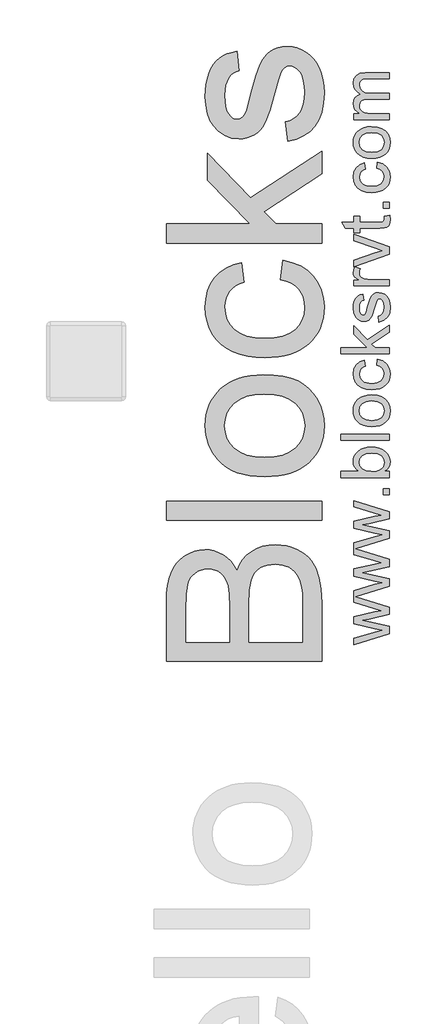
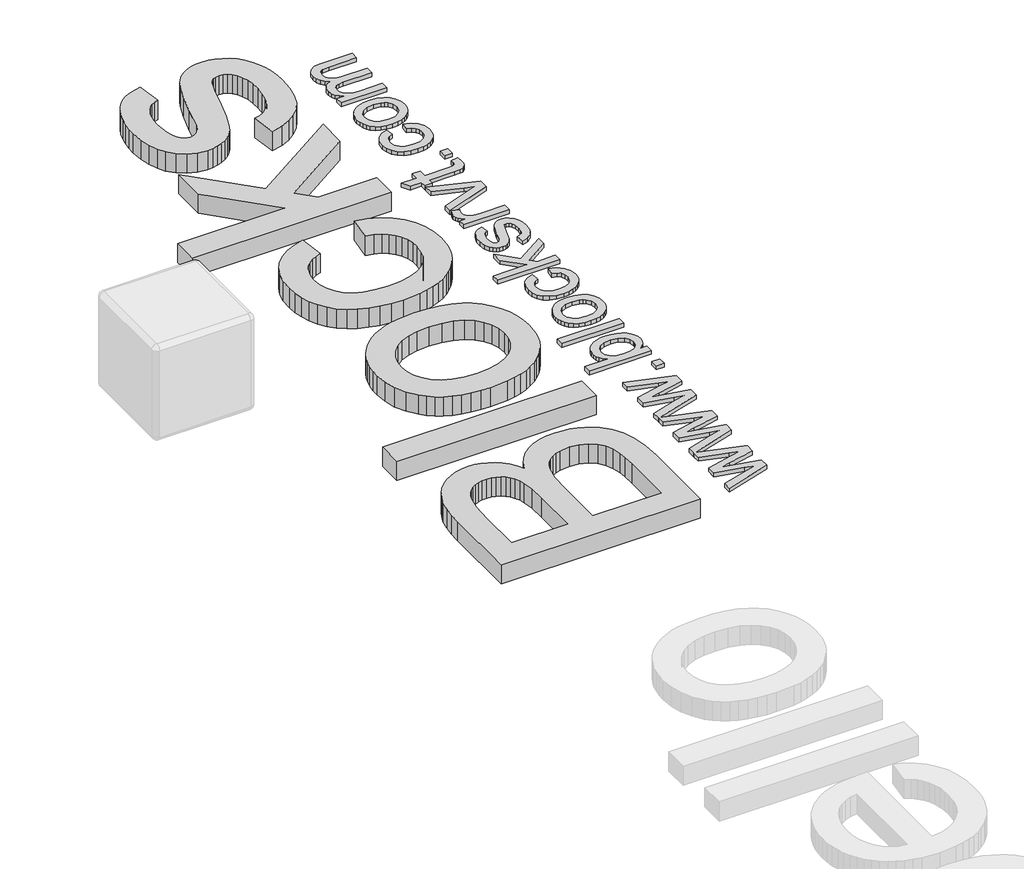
# One storey, part 4 of 4: 2 proxies.
"""IFC4 building model written with IfcOpenShell, lengths in millimetres."""

from ifc_helpers import new_model, si_unit, origin, origin_with_axes, place, context, project, spatial, polyline, outline, extrude, element, save

model = new_model("IFC4")

# Units and contexts
model_context = context("Model", 3, world=origin())
ifc_project = project(units=[si_unit("LENGTHUNIT", "METRE", prefix="MILLI")], contexts=[model_context])

# Site, building, storey
site = spatial("IfcSite", under=ifc_project)
building = spatial("IfcBuilding", under=site)
storey = spatial("IfcBuildingStorey", under=building, Name="PORTOBELLO - SHOWROOM", Elevation=0.0)

# Proxies
placement = place(None, origin())
element("IfcBuildingElementProxy", 1, Name="25mm OpenSans", ObjectType="25mm OpenSans", at=placement, inside=storey, context=model_context, shape_type="SweptSolid", body=[
    extrude(outline(polyline([(80807.9208473, 25882.9264571), (80590.3061731, 25816.7305041), (80807.9208473, 25750.0281338), (80807.9208473, 25703.6299037), (80675.6971347, 25674.1718997), (80634.4709205, 25665.6268298), (80807.9208473, 25627.623756), (80807.9208473, 25580.7008285), (80590.3061731, 25514.5048754), (80807.9208473, 25447.8025052), (80807.9208473, 25401.404275), (80675.6971347, 25371.946271), (80634.4709205, 25363.4012012), (80807.9208473, 25325.3981274), (80807.9208473, 25278.4751999), (80582.4509338, 25209.8897708), (80582.4509338, 25249.7667634), (80714.0000356, 25288.6693183), (80760.9979198, 25300.2876151), (80715.7240409, 25309.8071227), (80582.4509338, 25340.7642617), (80582.4509338, 25386.4878812), (80715.3492571, 25417.2951067), (80756.3506011, 25425.7652198), (80713.1005546, 25437.9082138), (80582.4509338, 25476.8857254), (80582.4509338, 25512.1153994), (80582.4509338, 25516.9126316), (80582.4509338, 25551.9923921), (80714.0000356, 25590.8949469), (80760.9979198, 25602.5132437), (80715.7240409, 25612.0327513), (80582.4509338, 25642.9898904), (80582.4509338, 25688.7135098), (80715.3492571, 25719.5207353), (80756.3506011, 25727.9908484), (80713.1005546, 25740.1338424), (80582.4509338, 25779.1113541), (80582.4509338, 25814.341028), (80582.4509338, 25819.1382602), (80582.4509338, 25854.2180207), (80714.0000356, 25893.1205756), (80760.9979198, 25904.7388723), (80715.7240409, 25914.25838), (80582.4509338, 25945.215519), (80582.4509338, 25990.9391384), (80715.3492571, 26021.7463639), (80756.3506011, 26030.216477), (80713.1005546, 26042.3594711), (80582.4509338, 26081.3369827), (80582.4509338, 26121.3638889), (80807.9208473, 26052.2537625), (80807.9208473, 26005.8555323), (80675.6971347, 25976.3975283), (80634.4709205, 25967.8524584), (80807.9208473, 25929.8493846), (80807.9208473, 25882.9264571)])), origin_with_axes(), (0.0, 0.0, 1.0), 20.0),
    extrude(outline(polyline([(80807.9208473, 26157.3431304), (80769.5429897, 26157.3431304), (80769.5429897, 26195.720988), (80807.9208473, 26195.720988), (80807.9208473, 26157.3431304)])), origin_with_axes(), (0.0, 0.0, 1.0), 20.0),
    extrude(outline(polyline([(80807.9208473, 26306.0573286), (80807.9208473, 26267.679471), (80500.8979864, 26267.679471), (80500.8979864, 26306.0573286), (80614.7572944, 26306.0573286), (80598.5244726, 26318.6781719), (80586.9295998, 26332.9293246), (80579.9726762, 26348.8107866), (80577.6537016, 26366.3225581), (80579.7431211, 26386.0924017), (80586.0113796, 26404.7753724), (80596.0649541, 26421.3033365), (80609.5103217, 26434.6081602), (80626.2163081, 26445.0365185), (80646.0517389, 26452.9350863), (80668.1920898, 26457.9103408), (80691.8128367, 26459.568759), (80719.068986, 26457.8517809), (80743.0457774, 26452.7008465), (80763.7432109, 26444.1159558), (80781.1612864, 26432.097109), (80794.9673834, 26417.6702764), (80804.8288812, 26401.8614287), (80810.7457799, 26384.6705658), (80812.7180795, 26366.0976878), (80810.1742347, 26348.0096863), (80802.5427002, 26331.973626), (80789.8234762, 26317.9895067), (80772.0165625, 26306.0573286), (80807.9208473, 26306.0573286)]), holes=[polyline([(80693.6117987, 26306.0573286), (80725.6183323, 26308.6808149), (80747.280834, 26316.551274), (80759.1193162, 26325.8505962), (80767.5753749, 26336.658423), (80772.6490101, 26348.9747545), (80774.3402219, 26362.7995907), (80769.3555978, 26384.9493112), (80754.4017255, 26403.8758914), (80729.5723011, 26416.8621489), (80694.9610203, 26421.1909014), (80659.8437815, 26417.0401712), (80635.2954448, 26404.5879806), (80620.8475306, 26386.2516848), (80616.0315593, 26364.4486393), (80621.0161833, 26342.2989187), (80635.9700556, 26323.3723385), (80660.3497395, 26310.3860811), (80693.6117987, 26306.0573286)])]), origin_with_axes(), (0.0, 0.0, 1.0), 20.0),
    extrude(outline(polyline([(80807.9208473, 26502.7438488), (80500.8979864, 26502.7438488), (80500.8979864, 26541.1217064), (80807.9208473, 26541.1217064), (80807.9208473, 26502.7438488)])), origin_with_axes(), (0.0, 0.0, 1.0), 20.0),
    extrude(outline(polyline([(80695.1858906, 26589.0940284), (80665.9855504, 26591.1693935), (80640.8235053, 26597.3954888), (80619.6997554, 26607.7723143), (80602.6143004, 26622.29987), (80591.6940385, 26636.9258065), (80583.8938513, 26653.0696172), (80579.2137391, 26670.7313021), (80577.6537016, 26689.9108614), (80579.5533869, 26711.0838017), (80585.2524425, 26730.2282249), (80594.7508686, 26747.344131), (80608.048665, 26762.43152), (80624.6960914, 26774.7455091), (80644.2434072, 26783.5412156), (80666.6906124, 26788.8186395), (80692.0377069, 26790.5777808), (80730.8090875, 26787.4670756), (80760.323309, 26778.1349598), (80782.4261816, 26762.8531517), (80798.9635153, 26741.8933696), (80809.2794384, 26716.998358), (80812.7180795, 26689.9108614), (80810.8254215, 26668.4287244), (80805.1474474, 26649.1062789), (80795.6841573, 26631.9435248), (80782.4355512, 26616.9404622), (80765.6264993, 26604.7576474), (80745.4818719, 26596.0556368), (80722.001669, 26590.8344305), (80695.1858906, 26589.0940284)]), holes=[polyline([(80695.1109338, 26627.471886), (80729.8440193, 26631.9130736), (80754.5891174, 26645.2366365), (80769.4024458, 26665.2875679), (80774.3402219, 26689.9108614), (80769.374337, 26714.4217196), (80754.4766823, 26734.4351727), (80743.2425389, 26742.2072511), (80729.4036484, 26747.7587356), (80693.9116258, 26752.1999232), (80660.1904564, 26747.7306268), (80635.7826637, 26734.3227376), (80620.9693354, 26714.2811757), (80616.0315593, 26689.9108614), (80620.9505962, 26665.2875679), (80635.7077069, 26645.2366365), (80660.3965875, 26631.9130736), (80695.1109338, 26627.471886)])]), origin_with_axes(), (0.0, 0.0, 1.0), 20.0),
    extrude(outline(polyline([(80726.3678999, 26977.6698366), (80731.1651321, 27016.0476942), (80765.2985635, 27005.3476177), (80791.0930562, 26985.2404687), (80807.3118236, 26957.6189052), (80812.7180795, 26924.3755851), (80810.8324486, 26902.851285), (80805.1755562, 26883.5522635), (80795.7474021, 26866.4785205), (80782.5479863, 26851.6300562), (80765.8256032, 26839.6112093), (80745.8285469, 26831.0263187), (80722.5568174, 26825.8753843), (80696.0104148, 26824.1584062), (80661.8582442, 26827.0910892), (80632.2596963, 26835.8891381), (80608.3578616, 26850.6930968), (80591.2958307, 26871.6435093), (80581.0642339, 26896.7071736), (80577.6537016, 26923.8508879), (80582.3384987, 26956.2790532), (80596.3928899, 26982.2047202), (80619.0673078, 27000.8033646), (80649.6121847, 27011.250462), (80654.4094169, 26972.8726044), (80637.6659521, 26965.910996), (80625.663502, 26955.0703756), (80618.4395449, 26940.9503972), (80616.0315593, 26924.1507149), (80620.7725739, 26899.3493992), (80634.9956178, 26879.6638819), (80645.8549774, 26872.170549), (80659.4689977, 26866.8181683), (80694.9610203, 26862.5362638), (80730.9308922, 26866.7244724), (80755.4885985, 26879.2890981), (80769.627316, 26898.6185709), (80774.3402219, 26923.1013203), (80771.3981693, 26942.9742295), (80762.5720116, 26959.2679537), (80747.6368786, 26971.1204903), (80726.3678999, 26977.6698366)])), origin_with_axes(), (0.0, 0.0, 1.0), 20.0),
    extrude(outline(polyline([(80807.9208473, 27049.6283196), (80500.8979864, 27049.6283196), (80500.8979864, 27088.0061772), (80665.8778001, 27088.0061772), (80582.4509338, 27174.0565298), (80582.4509338, 27227.125911), (80666.9271946, 27140.0261639), (80807.9208473, 27231.9231432), (80807.9208473, 27187.0990049), (80693.6117987, 27112.5170355), (80717.3730895, 27088.0061772), (80807.9208473, 27088.0061772), (80807.9208473, 27049.6283196)])), origin_with_axes(), (0.0, 0.0, 1.0), 20.0),
    extrude(outline(polyline([(80740.7595965, 27251.112072), (80735.9623643, 27289.4899296), (80752.3778932, 27295.5426875), (80764.4459305, 27307.2546801), (80771.866649, 27324.7008644), (80774.3402219, 27347.9561971), (80772.0727801, 27370.9304419), (80765.2704547, 27387.0836222), (80755.4136417, 27396.6406082), (80743.9827368, 27399.8262703), (80734.2008806, 27396.6218691), (80726.7426836, 27387.0086655), (80715.7989977, 27347.5064566), (80697.022331, 27289.7147999), (80687.5871497, 27275.0888635), (80675.0974807, 27264.4918525), (80660.3497395, 27258.0549413), (80644.1403417, 27255.9093042), (80629.2707958, 27257.6333096), (80615.5443404, 27262.8053255), (80603.5044119, 27270.9568724), (80593.6944468, 27281.6194706), (80582.3384987, 27306.0178937), (80577.6537016, 27339.0363435), (80579.5369901, 27364.0156814), (80585.1868553, 27385.7344007), (80594.0504914, 27403.1993241), (80605.5750922, 27415.4172749), (80620.6132908, 27423.5126042), (80640.0177203, 27428.6096635), (80644.8149525, 27390.2318059), (80632.7375456, 27385.3877257), (80623.6396697, 27375.8026309), (80617.9335869, 27361.3828255), (80616.0315593, 27342.0346136), (80617.8492605, 27319.9973282), (80623.3023643, 27305.3058046), (80631.1728234, 27297.0418225), (80640.2425905, 27294.2871618), (80651.4111467, 27298.8595238), (80659.8812598, 27313.1762636), (80668.0515459, 27346.2321918), (80686.1161234, 27402.5621917), (80694.7548892, 27417.4411072), (80706.579317, 27428.7220986), (80721.6268852, 27435.8336205), (80739.9350722, 27438.2041279), (80758.8616523, 27435.4213584), (80776.6638812, 27427.07305), (80791.9456893, 27413.4777689), (80803.3110069, 27394.9540813), (80810.3663113, 27372.5794905), (80812.7180795, 27347.4314998), (80808.1831959, 27308.735076), (80802.5145914, 27293.3080393), (80794.5785452, 27280.4951193), (80772.0540409, 27261.6434959), (80740.7595965, 27251.112072)])), origin_with_axes(), (0.0, 0.0, 1.0), 20.0),
    extrude(outline(polyline([(80807.9208473, 27680.6142675), (80582.4509338, 27601.3100227), (80582.4509338, 27641.9365829), (80717.523003, 27689.9838616), (80762.9467954, 27704.450515), (80720.0715326, 27718.6173413), (80582.4509338, 27766.9644471), (80582.4509338, 27807.5910073), (80807.9208473, 27729.2612003), (80807.9208473, 27680.6142675)])), origin_with_axes(), (0.0, 0.0, 1.0), 20.0),
    extrude(outline(polyline([(80807.9208473, 27481.3792177), (80582.4509338, 27481.3792177), (80582.4509338, 27514.9598431), (80615.806689, 27514.9598431), (80596.4678467, 27527.3651857), (80585.0744202, 27538.7960906), (80579.5088813, 27550.2644738), (80577.6537016, 27562.7822516), (80580.6144934, 27581.8962236), (80589.4968686, 27601.3100227), (80623.9020183, 27588.4924179), (80617.999174, 27575.0002023), (80616.0315593, 27561.5079868), (80617.9242173, 27550.0489731), (80623.6021913, 27539.8080067), (80632.6344801, 27531.5346551), (80644.5900822, 27525.9784858), (80666.0277136, 27521.3124279), (80689.4142206, 27519.7570753), (80807.9208473, 27519.7570753), (80807.9208473, 27481.3792177)])), origin_with_axes(), (0.0, 0.0, 1.0), 20.0),
    extrude(outline(polyline([(80775.9143137, 27922.7245801), (80809.0451986, 27927.5218123), (80812.7180795, 27898.8133759), (80811.1252485, 27880.3927538), (80806.3467555, 27866.6569288), (80798.9822545, 27856.9500292), (80789.6313995, 27850.6161836), (80773.5719151, 27847.1306946), (80746.0815259, 27845.9688649), (80620.8287915, 27845.9688649), (80620.8287915, 27817.1854717), (80582.4509338, 27817.1854717), (80582.4509338, 27845.9688649), (80527.6575473, 27845.9688649), (80505.0955646, 27884.3467225), (80582.4509338, 27884.3467225), (80582.4509338, 27922.7245801), (80620.8287915, 27922.7245801), (80620.8287915, 27884.3467225), (80744.9571746, 27884.3467225), (80764.7457575, 27886.3705548), (80771.7542139, 27892.9292707), (80774.3402219, 27906.0092242), (80775.9143137, 27922.7245801)])), origin_with_axes(), (0.0, 0.0, 1.0), 20.0),
    extrude(outline(polyline([(80807.9208473, 27970.6969021), (80769.5429897, 27970.6969021), (80769.5429897, 28009.0747597), (80807.9208473, 28009.0747597), (80807.9208473, 27970.6969021)])), origin_with_axes(), (0.0, 0.0, 1.0), 20.0),
    extrude(outline(polyline([(80726.3678999, 28224.9502087), (80731.1651321, 28263.3280663), (80765.2985635, 28252.6279898), (80791.0930562, 28232.5208408), (80807.3118236, 28204.8992773), (80812.7180795, 28171.6559572), (80810.8324486, 28150.1316571), (80805.1755562, 28130.8326356), (80795.7474021, 28113.7588927), (80782.5479863, 28098.9104283), (80765.8256032, 28086.8915815), (80745.8285469, 28078.3066908), (80722.5568174, 28073.1557564), (80696.0104148, 28071.4387783), (80661.8582442, 28074.3714613), (80632.2596963, 28083.1695102), (80608.3578616, 28097.9734689), (80591.2958307, 28118.9238814), (80581.0642339, 28143.9875457), (80577.6537016, 28171.13126), (80582.3384987, 28203.5594253), (80596.3928899, 28229.4850923), (80619.0673078, 28248.0837367), (80649.6121847, 28258.5308341), (80654.4094169, 28220.1529765), (80637.6659521, 28213.1913681), (80625.663502, 28202.3507477), (80618.4395449, 28188.2307693), (80616.0315593, 28171.431087), (80620.7725739, 28146.6297713), (80634.9956178, 28126.944254), (80645.8549774, 28119.4509211), (80659.4689977, 28114.0985404), (80694.9610203, 28109.8166359), (80730.9308922, 28114.0048445), (80755.4885985, 28126.5694702), (80769.627316, 28145.898943), (80774.3402219, 28170.3816924), (80771.3981693, 28190.2546016), (80762.5720116, 28206.5483258), (80747.6368786, 28218.4008624), (80726.3678999, 28224.9502087)])), origin_with_axes(), (0.0, 0.0, 1.0), 20.0),
    extrude(outline(polyline([(80695.1858906, 28287.3142273), (80665.9855504, 28289.3895924), (80640.8235053, 28295.6156877), (80619.6997554, 28305.9925133), (80602.6143004, 28320.520069), (80591.6940385, 28335.1460054), (80583.8938513, 28351.2898161), (80579.2137391, 28368.9515011), (80577.6537016, 28388.1310603), (80579.5533869, 28409.3040007), (80585.2524425, 28428.4484239), (80594.7508686, 28445.56433), (80608.048665, 28460.6517189), (80624.6960914, 28472.965708), (80644.2434072, 28481.7614145), (80666.6906124, 28487.0388384), (80692.0377069, 28488.7979797), (80730.8090875, 28485.6872745), (80760.323309, 28476.3551587), (80782.4261816, 28461.0733507), (80798.9635153, 28440.1135686), (80809.2794384, 28415.218557), (80812.7180795, 28388.1310603), (80810.8254215, 28366.6489233), (80805.1474474, 28347.3264778), (80795.6841573, 28330.1637237), (80782.4355512, 28315.1606611), (80765.6264993, 28302.9778463), (80745.4818719, 28294.2758358), (80722.001669, 28289.0546294), (80695.1858906, 28287.3142273)]), holes=[polyline([(80695.1109338, 28325.6920849), (80729.8440193, 28330.1332726), (80754.5891174, 28343.4568354), (80769.4024458, 28363.5077669), (80774.3402219, 28388.1310603), (80769.374337, 28412.6419186), (80754.4766823, 28432.6553717), (80743.2425389, 28440.42745), (80729.4036484, 28445.9789345), (80693.9116258, 28450.4201221), (80660.1904564, 28445.9508257), (80635.7826637, 28432.5429365), (80620.9693354, 28412.5013747), (80616.0315593, 28388.1310603), (80620.9505962, 28363.5077669), (80635.7077069, 28343.4568354), (80660.3965875, 28330.1332726), (80695.1109338, 28325.6920849)])]), origin_with_axes(), (0.0, 0.0, 1.0), 20.0),
    extrude(outline(polyline([(80807.9208473, 28531.9730696), (80582.4509338, 28531.9730696), (80582.4509338, 28570.3509272), (80619.5545266, 28570.3509272), (80602.5112349, 28581.8942671), (80589.1595633, 28596.7357043), (80580.530167, 28614.3692804), (80577.6537016, 28634.2890376), (80580.5863846, 28655.632973), (80589.3844335, 28672.7418519), (80603.4669335, 28685.5219783), (80622.2529698, 28693.8796563), (80602.74079, 28707.8684604), (80588.8035187, 28723.8248792), (80580.4411559, 28741.7489128), (80577.6537016, 28761.6405611), (80582.2916507, 28790.4895415), (80596.205498, 28811.8241074), (80619.7700273, 28825.0071263), (80653.3600223, 28829.401466), (80807.9208473, 28829.401466), (80807.9208473, 28791.0236084), (80669.850508, 28791.0236084), (80637.806496, 28787.4631626), (80628.9709688, 28782.4597993), (80622.0280995, 28774.5706011), (80617.5306943, 28764.4233306), (80616.0315593, 28752.6457508), (80619.8730928, 28731.8546214), (80631.3976936, 28714.9050256), (80651.3924075, 28703.6334038), (80680.6442805, 28699.8761966), (80807.9208473, 28699.8761966), (80807.9208473, 28661.498339), (80665.5779731, 28661.498339), (80643.877993, 28659.2777451), (80628.3994235, 28652.6159637), (80619.1235253, 28640.8946014), (80616.0315593, 28623.4952651), (80618.09287, 28608.7100456), (80624.2768021, 28595.0866557), (80634.4334421, 28583.8431427), (80648.4128766, 28576.1975539), (80667.8079365, 28571.8125838), (80694.2114528, 28570.3509272), (80807.9208473, 28570.3509272), (80807.9208473, 28531.9730696)])), origin_with_axes(), (0.0, 0.0, 1.0), 20.0),
])
element("IfcBuildingElementProxy", 2, Name="80mm OpenSans", ObjectType="80mm OpenSans", at=placement, inside=storey, context=model_context, shape_type="SweptSolid", body=[
    extrude(outline(polyline([(80378.4774246, 25103.3802156), (79393.9359054, 25103.3802156), (79393.9359054, 25479.073183), (79395.7461662, 25533.5687939), (79401.1769487, 25582.4007673), (79410.2282528, 25625.5691031), (79422.9000785, 25663.0738014), (79439.3276321, 25695.8688169), (79459.6461197, 25724.9081045), (79483.8555414, 25750.1916644), (79511.9558971, 25771.7194963), (79542.3622697, 25788.9132184), (79573.4897421, 25801.1944484), (79605.3383141, 25808.5631865), (79637.907986, 25811.0194325), (79667.991366, 25808.9537822), (79697.1883942, 25802.7568312), (79725.4990707, 25792.4285797), (79752.9233954, 25777.9690275), (79778.6050624, 25759.3331059), (79801.6877657, 25736.4757463), (79822.1715053, 25709.3969485), (79840.0562813, 25678.0967127), (79855.8904299, 25715.2408611), (79876.4718184, 25747.8330673), (79901.800447, 25775.8733313), (79931.8763156, 25799.3616533), (79965.7830265, 25817.9224602), (80002.6041823, 25831.1801795), (80042.3397828, 25839.1348111), (80084.9898282, 25841.7863549), (80119.9406315, 25839.9760941), (80153.6445331, 25834.5453117), (80186.1015331, 25825.4940076), (80217.3116315, 25812.8221818), (80246.1405984, 25797.4762779), (80271.454204, 25780.4027391), (80293.2524484, 25761.6015655), (80311.5353316, 25741.0727572), (80340.5595963, 25692.9093033), (80361.5315806, 25633.989445), (80374.2409636, 25562.3902494), (80378.4774246, 25476.188784), (80378.4774246, 25103.3802156)]), holes=[polyline([(79793.9058976, 25226.4479055), (79793.9058976, 25451.1906595), (79791.2618652, 25529.7905317), (79783.329768, 25582.4308132), (79775.3450906, 25607.0158076), (79765.0919536, 25628.3708761), (79752.570357, 25646.4960187), (79737.7803007, 25661.3912353), (79720.8269453, 25673.0114572), (79701.8154509, 25681.3116158), (79680.7458177, 25686.2917109), (79657.6180457, 25687.9517426), (79635.4742743, 25686.4043827), (79614.7126108, 25681.7623031), (79595.3330552, 25674.0255037), (79577.3356074, 25663.1939846), (79561.3887869, 25649.4780666), (79548.1611135, 25633.0880703), (79537.652587, 25614.0239957), (79529.8632075, 25592.285843), (79520.2184984, 25529.6703484), (79517.0035953, 25434.1246322), (79517.0035953, 25226.4479055), (79793.9058976, 25226.4479055)]), polyline([(80255.4097347, 25226.4479055), (80255.4097347, 25478.8328164), (80254.2079018, 25534.1171302), (80250.6024031, 25570.1721175), (80239.936136, 25612.5667733), (80223.8015292, 25647.4499735), (80200.6962915, 25675.8132302), (80169.1181318, 25698.6480555), (80130.4792038, 25713.7010127), (80086.1916611, 25718.718665), (80034.7532126, 25712.8296838), (80011.7381124, 25705.4684572), (79990.5257615, 25695.16274), (79971.724588, 25681.5594938), (79955.9430196, 25664.3056801), (79943.1810564, 25643.4012989), (79933.4386983, 25618.8463503), (79921.0898652, 25554.4581522), (79916.9735875, 25466.8144873), (79916.9735875, 25226.4479055), (80255.4097347, 25226.4479055)])]), origin_with_axes(), (0.0, 0.0, 1.0), 100.0),
    extrude(outline(polyline([(80378.4774246, 25995.6209673), (79393.9359054, 25995.6209673), (79393.9359054, 26118.6886572), (80378.4774246, 26118.6886572), (80378.4774246, 25995.6209673)])), origin_with_axes(), (0.0, 0.0, 1.0), 100.0),
    extrude(outline(polyline([(80016.9660855, 26272.5232696), (79968.5284636, 26274.187057), (79923.328279, 26279.1784193), (79881.3655318, 26287.4973565), (79842.6402221, 26299.1438685), (79807.1523497, 26314.1179554), (79774.9019147, 26332.4196172), (79745.8889171, 26354.0488538), (79720.113357, 26379.0056653), (79685.0949506, 26425.9071946), (79660.0818032, 26477.6761472), (79645.0739147, 26534.312523), (79640.0712852, 26595.8163221), (79641.5942329, 26630.5774612), (79646.1630758, 26663.7123701), (79653.777814, 26695.2210488), (79664.4384475, 26725.1034973), (79678.1449762, 26753.3597158), (79694.8974002, 26779.989704), (79714.6957196, 26804.9934621), (79737.5399342, 26828.3709901), (79763.0694942, 26849.5251271), (79790.9238497, 26867.8587126), (79821.1030008, 26883.3717464), (79853.6069474, 26896.0642287), (79888.4356895, 26905.9361593), (79925.5892272, 26912.9875383), (80006.8706891, 26918.6286415), (80072.7461554, 26916.1348383), (80131.2003035, 26908.6534284), (80182.2331334, 26896.184412), (80225.8446451, 26878.727789), (80263.5145954, 26856.5013916), (80296.722741, 26829.7230521), (80325.4690819, 26798.3927704), (80349.7536181, 26762.5105466), (80369.0505477, 26723.4735115), (80382.8340689, 26682.6787957), (80391.1041816, 26640.1263992), (80393.8608858, 26595.8163221), (80387.7916296, 26526.9287621), (80380.2050594, 26495.0820679), (80369.5838611, 26464.9667642), (80355.9280346, 26436.582851), (80339.2375801, 26409.9303284), (80319.5124975, 26385.0091963), (80296.7527868, 26361.8194547), (80271.1387229, 26340.8906613), (80242.8505808, 26322.7523737), (80211.8883605, 26307.4045919), (80178.2520619, 26294.8473159), (80141.9416852, 26285.0805456), (80102.9572302, 26278.1042812), (80016.9660855, 26272.5232696)]), holes=[polyline([(80016.7257189, 26395.5909595), (80076.4192573, 26399.1513895), (80128.1055838, 26409.8326795), (80171.7846986, 26427.6348294), (80207.4566016, 26452.5578394), (80235.1663616, 26482.8740745), (80254.9590474, 26516.8559), (80266.8346588, 26554.5033159), (80270.7931959, 26595.8163221), (80266.8121244, 26636.9190076), (80254.8689099, 26674.4161944), (80234.9635523, 26708.3078824), (80207.0960518, 26738.5940718), (80171.0711103, 26763.5170817), (80126.6934301, 26781.3192317), (80073.9630112, 26792.0005217), (80012.8798536, 26795.5609516), (79955.0792022, 26791.9779873), (79904.7449376, 26781.2290942), (79861.8770601, 26763.3142724), (79826.4755694, 26738.2335219), (79798.7658094, 26707.8346607), (79778.9731237, 26673.9655071), (79767.0975123, 26636.6260609), (79763.1389751, 26595.8163221), (79767.0824893, 26554.5033159), (79778.913032, 26516.8559), (79798.6306032, 26482.8740745), (79826.2352028, 26452.5578394), (79861.8019455, 26427.6348294), (79905.4059457, 26409.8326795), (79957.0472036, 26399.1513895), (80016.7257189, 26395.5909595)])]), origin_with_axes(), (0.0, 0.0, 1.0), 100.0),
    extrude(outline(polyline([(80116.9585836, 27518.5836298), (80132.3420448, 27641.6513197), (80190.4131087, 27628.2659057), (80241.798977, 27607.3389901), (80286.4996498, 27578.8705731), (80324.515127, 27542.8606546), (80354.8538965, 27500.8265486), (80376.5244461, 27454.2855692), (80389.5267759, 27403.2377163), (80393.8608858, 27347.6829901), (80387.814164, 27278.6602238), (80380.2557617, 27246.8247968), (80369.6739985, 27216.7733405), (80356.0688744, 27188.5058549), (80339.4403894, 27162.02234), (80319.7885435, 27137.3227959), (80297.1133367, 27114.4072224), (80271.6138225, 27093.7601086), (80243.4890545, 27075.8659433), (80212.7390328, 27060.7247265), (80179.3637574, 27048.3364583), (80143.3632282, 27038.7011385), (80104.7374452, 27031.8187672), (80019.6101179, 27026.3128702), (79963.0263223, 27028.6639558), (79910.0930941, 27035.7172127), (79860.8104334, 27047.4726409), (79815.1783401, 27063.9302403), (79774.1132119, 27085.2026828), (79738.5314463, 27111.4026402), (79708.4330434, 27142.5301125), (79683.8180031, 27178.5850998), (79664.678814, 27217.9376161), (79651.0079647, 27258.9576756), (79642.8054551, 27301.6452782), (79640.0712852, 27346.000424), (79643.8270131, 27400.6011954), (79655.0941966, 27449.9890165), (79673.8728358, 27494.1638874), (79700.1629307, 27533.125808), (79733.3635648, 27566.2137703), (79772.8738217, 27592.7667661), (79818.6937013, 27612.7847955), (79870.8232038, 27626.2678585), (79886.206665, 27503.2001686), (79857.4603241, 27493.5930167), (79832.5147798, 27480.8761223), (79811.3700321, 27465.0494851), (79794.0260809, 27446.1131054), (79780.5129721, 27424.5477161), (79770.8607516, 27400.8340505), (79765.0694192, 27374.9721086), (79763.1389751, 27346.9618904), (79766.9397717, 27305.1456166), (79778.3421614, 27267.4305976), (79797.3461443, 27233.8168334), (79823.9517203, 27204.3043241), (79858.7748289, 27180.2751773), (79902.4314093, 27163.1115011), (79954.9214616, 27152.8132953), (80016.2449858, 27149.3805601), (80078.492419, 27152.7381808), (80131.5908992, 27162.8110429), (80175.5404264, 27179.5991463), (80210.3410006, 27203.1024911), (80236.7888361, 27232.029107), (80255.6801471, 27265.0870234), (80267.0149337, 27302.2762405), (80270.7931959, 27343.5967582), (80268.4345989, 27376.8950413), (80261.3588076, 27407.3239482), (80249.5658222, 27434.8834791), (80233.0556426, 27459.573634), (80211.6479939, 27480.7033588), (80185.1626012, 27497.5815997), (80153.5994644, 27510.2083567), (80116.9585836, 27518.5836298)])), origin_with_axes(), (0.0, 0.0, 1.0), 100.0),
    extrude(outline(polyline([(80378.4774246, 27749.3355484), (79393.9359054, 27749.3355484), (79393.9359054, 27872.4032382), (79922.982752, 27872.4032382), (79655.4547465, 28148.3440742), (79655.4547465, 28318.5236141), (79926.3478842, 28039.217646), (80378.4774246, 28333.9070754), (80378.4774246, 28190.1678594), (80011.9183873, 27951.0031105), (80088.1145938, 27872.4032382), (80378.4774246, 27872.4032382), (80378.4774246, 27749.3355484)])), origin_with_axes(), (0.0, 0.0, 1.0), 100.0),
    extrude(outline(polyline([(80163.1089673, 28395.4409203), (80147.725506, 28518.5086102), (80175.7883045, 28525.9449513), (80200.3657875, 28537.9182117), (80221.457955, 28554.4283913), (80239.0648071, 28575.4754901), (80252.9459772, 28601.1195998), (80262.8610987, 28631.420812), (80268.8101716, 28666.3791268), (80270.7931959, 28705.994544), (80268.9754237, 28745.5648926), (80263.5221068, 28779.6669014), (80254.4332455, 28808.3005704), (80241.7088395, 28831.4658998), (80226.5356991, 28849.3431643), (80210.100634, 28862.1126389), (80192.4036444, 28869.7743237), (80173.4447303, 28872.3282187), (80156.8293903, 28869.7593008), (80142.0768914, 28862.0525473), (80129.1872334, 28849.2079581), (80118.1604165, 28831.2255332), (80102.5365887, 28785.1352411), (80083.0668955, 28704.5523445), (80050.5873612, 28592.2410592), (80022.8550668, 28519.22971), (80008.9513623, 28494.1639823), (79992.5989233, 28472.3281807), (79973.7977497, 28453.7223049), (79952.5478416, 28438.3463552), (79929.4876727, 28426.3054917), (79905.2557166, 28417.704875), (79879.8519735, 28412.5445049), (79853.2764433, 28410.8243815), (79805.5937226, 28416.3528129), (79761.5765923, 28432.9381071), (79722.9677101, 28459.0779728), (79691.5097337, 28493.2701191), (79671.7095366, 28527.2519446), (79655.0941966, 28571.5094415), (79643.8270131, 28622.6774776), (79640.0712852, 28677.3909208), (79641.5810878, 28718.7489958), (79646.1104956, 28757.4930842), (79653.6595085, 28793.623186), (79664.2281267, 28827.1393013), (79677.3731741, 28857.2452157), (79692.651475, 28883.1447148), (79710.0630293, 28904.8377989), (79729.607837, 28922.3244677), (79751.9694405, 28936.506096), (79777.8313824, 28948.2840585), (79807.1936627, 28957.6583552), (79840.0562813, 28964.6289861), (79855.4397425, 28841.5612962), (79834.8808883, 28835.6948493), (79816.710677, 28826.0276058), (79800.9291087, 28812.5595658), (79787.5361832, 28795.2907292), (79776.8624046, 28774.1459814), (79769.2382771, 28749.050208), (79764.6638006, 28720.0034089), (79763.1389751, 28687.0055841), (79764.5961975, 28648.7272059), (79768.9678647, 28616.337809), (79776.2539767, 28589.8373934), (79786.4545336, 28569.225959), (79798.5930459, 28553.7673832), (79811.6930246, 28542.7255433), (79825.7544697, 28536.1004394), (79840.777381, 28533.8920714), (79859.7062494, 28537.5576618), (79876.5920017, 28548.5544329), (79891.6750048, 28567.363118), (79903.7534255, 28594.4644501), (79929.9533829, 28700.4661127), (79962.1024132, 28809.2019451), (79987.8817291, 28881.1015989), (80000.4559059, 28906.4001816), (80015.5839777, 28928.8143654), (80033.2659444, 28948.3441502), (80053.501806, 28964.989536), (80076.3216083, 28978.292324), (80101.7553973, 28987.7943154), (80129.8031728, 28993.4955103), (80160.4649349, 28995.3959086), (80191.2619032, 28993.1650062), (80221.1574968, 28986.4722992), (80250.1517157, 28975.3177875), (80278.24456, 28959.7014712), (80304.3168227, 28939.8787396), (80327.2492968, 28916.1049824), (80347.0419826, 28888.3801995), (80363.6948798, 28856.7043908), (80376.8925075, 28821.9413739), (80386.3193843, 28784.9549662), (80391.9755105, 28745.7451675), (80393.8608858, 28704.311978), (80390.2253413, 28638.0759618), (80379.3187076, 28580.2227301), (80361.1409849, 28530.752283), (80335.692173, 28489.6646204), (80303.0924554, 28456.1034364), (80263.4620152, 28429.2124251), (80216.8008525, 28408.9915864), (80163.1089673, 28395.4409203)])), origin_with_axes(), (0.0, 0.0, 1.0), 100.0),
])

save(model, "model.ifc")
